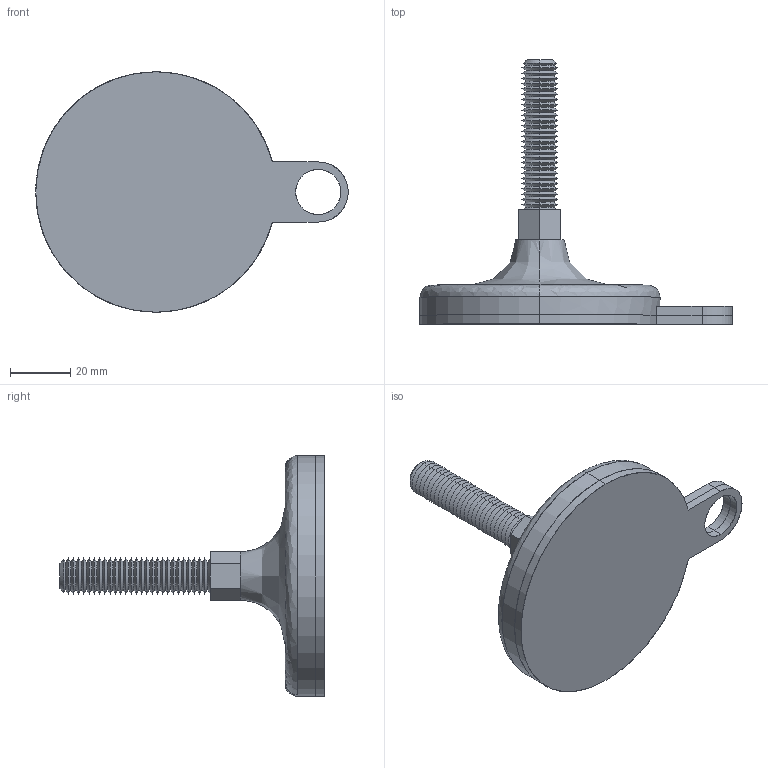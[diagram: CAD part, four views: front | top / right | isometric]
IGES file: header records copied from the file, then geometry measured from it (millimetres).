
Start section: SolidWorks IGES file using analytic representation for surfaces
Global section: file name: C:\Users\liam_\OneDrive\Documents\WORK\Work for WixRoyd\Job Files\J-00026 - Matt Davis CAD - 20191124\04. CAD Drawings\Wixroyd20191124\34704_v2\34704_v2_20191128_IGES\34704.W1200.igs; native system: SolidWorks 2017; preprocessor: SolidWorks 2017; author: liam_; date: 191128.202310; units: millimetre
Bounding box: 104 x 88 x 80 mm (x, y, z)
Surface area: 28765.8 mm2 (no closed solid volume)
Topology: 0 solids, 0 shells, 158 faces, 1252 edges, 1252 vertices
Faces by surface type: revolution 125, bspline 33
